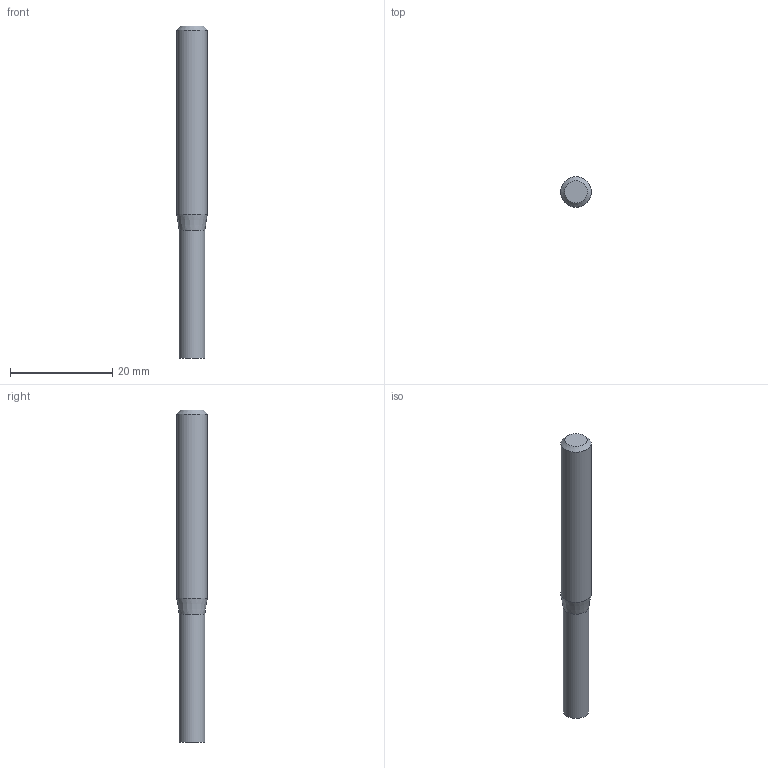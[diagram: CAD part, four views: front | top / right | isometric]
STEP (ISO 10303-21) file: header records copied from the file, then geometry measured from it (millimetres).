
FILE_DESCRIPTION((''),'2;1');
FILE_NAME('C:\Users\nsx150\AppData\Local\Temp\Mastercam 2021\W9Z147XDNF\TEMP.step','2021-04-08T14:50:21',(''),(''),'STEP Write','Mastercam 2021 ... CNC Software, Inc.','');
FILE_SCHEMA(('AUTOMOTIVE_DESIGN'));
Length unit declared in the file: millimetre
Products named in the file (1): None
Bounding box: 6 x 6 x 65 mm (x, y, z)
Volume: 1602.3 mm3; surface area: 1219.9 mm2
Topology: 2 solids, 2 shells, 8 faces, 10 edges, 6 vertices
Faces by surface type: plane 4, cylinder 2, cone 2
Full cylindrical faces by diameter (mm): 5 x1, 6 x1
Entity records: 190 total; most frequent: DIRECTION 32, CARTESIAN_POINT 22, AXIS2_PLACEMENT_3D 16, ORIENTED_EDGE 12, EDGE_LOOP 12, STYLED_ITEM 11, ADVANCED_FACE 8, VERTEX_POINT 6
